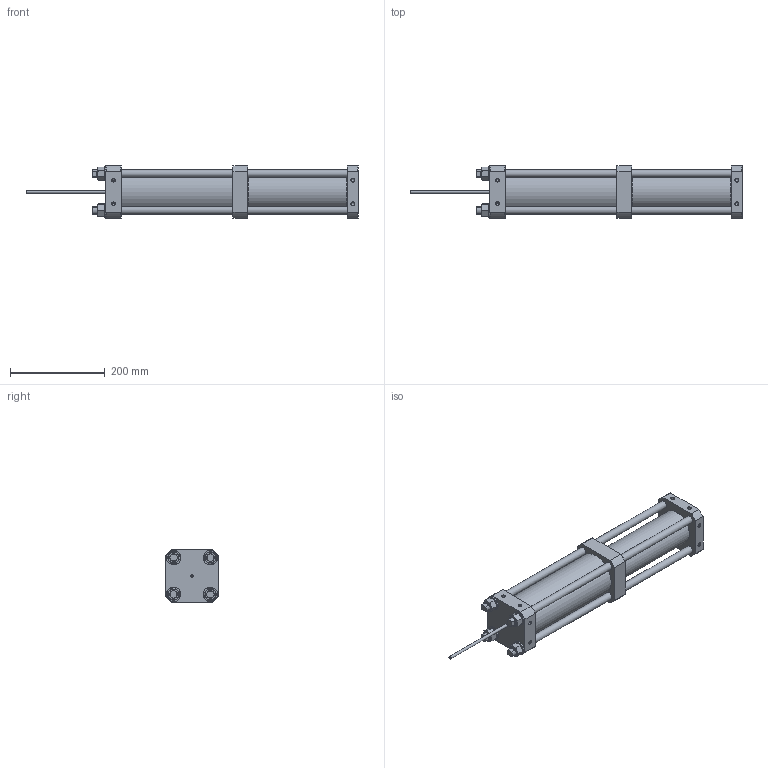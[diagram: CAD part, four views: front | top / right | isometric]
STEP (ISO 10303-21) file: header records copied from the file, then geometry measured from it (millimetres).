
FILE_DESCRIPTION(/* description */ (''),/* implementation_level */ '2;1');
FILE_NAME(/* name */ 'H13.7000.STP',/* time_stamp */ '2026-06-09T22:28:50+02:00',/* author */ ('janos'),/* organization */ (''),/* preprocessor_version */ 'ST-DEVELOPER v19.2',/* originating_system */ 'Autodesk Inventor 2024',/* authorisation */ '');
FILE_SCHEMA (('AUTOMOTIVE_DESIGN { 1 0 10303 214 3 1 1 }'));
Length unit declared in the file: millimetre
Products named in the file (1): HDÜ.BG.7000.13.1_Vereinfachen_1
Bounding box: 702 x 110 x 110 mm (x, y, z)
Volume: 3912352.3 mm3; surface area: 322863.6 mm2
Topology: 1 solids, 1 shells, 227 faces, 577 edges, 365 vertices
Faces by surface type: cone 86, plane 85, cylinder 55, torus 1
Full cylindrical faces by diameter (mm): 6 x1, 6.647 x16, 7 x2, 11.445 x2, 14.376 x1, 16 x8, 17 x4, 30 x4, 45 x1, 75 x1, 92 x1
Entity records: 7090 total; most frequent: CARTESIAN_POINT 1452, DIRECTION 1143, ORIENTED_EDGE 1122, EDGE_CURVE 561, AXIS2_PLACEMENT_3D 464, VERTEX_POINT 365, EDGE_LOOP 276, CIRCLE 236
